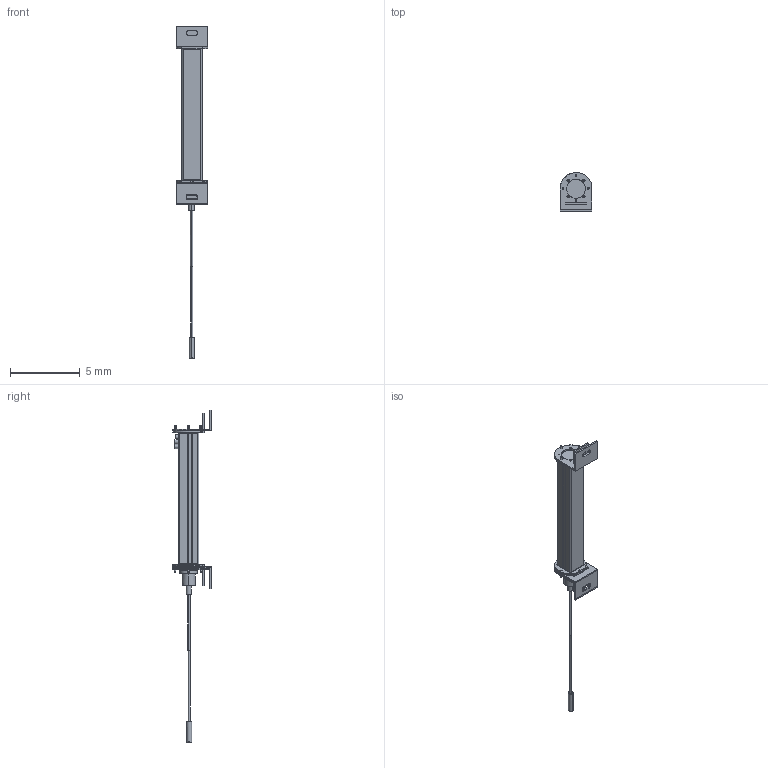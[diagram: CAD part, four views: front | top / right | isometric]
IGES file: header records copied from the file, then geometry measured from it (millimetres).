
Bounding box: 2.26 x 2.75 x 23.81 mm (x, y, z)
Surface area: 276.8 mm2 (no closed solid volume)
Topology: 0 solids, 0 shells, 1778 faces, 9192 edges, 9363 vertices
Faces by surface type: bspline 1778
